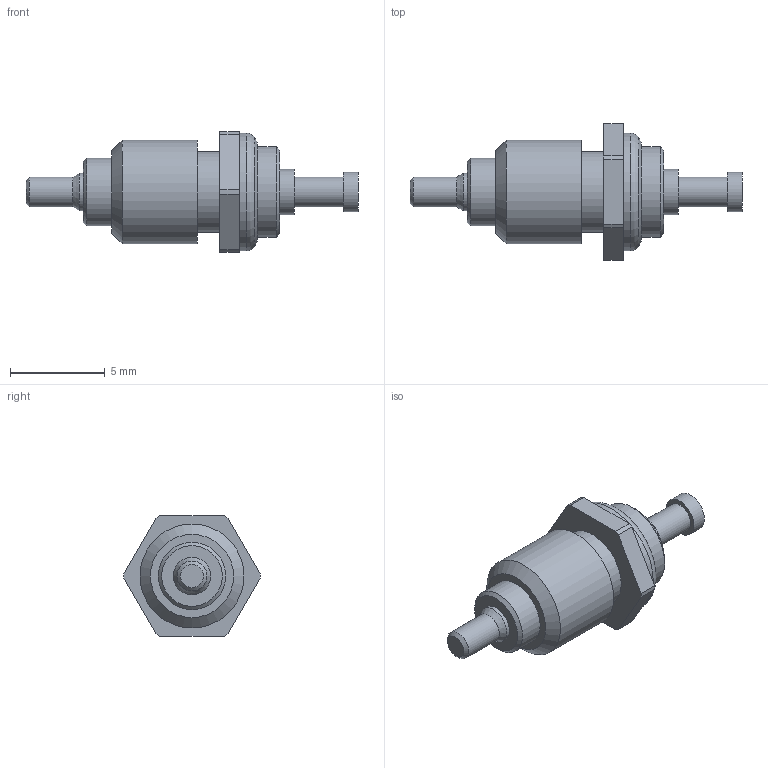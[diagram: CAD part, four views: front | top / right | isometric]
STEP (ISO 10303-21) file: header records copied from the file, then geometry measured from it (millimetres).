
FILE_DESCRIPTION(/* description */ (''),/* implementation_level */ '2;1');
FILE_NAME(/* name */ '\\Snap1\dwgs\Customer 3D Models\570\570-0001.stp',/* time_stamp */ '2016-12-23T09:37:08+00:00',/* author */ ('paulk'),/* organization */ (''),/* preprocessor_version */ 'ST-DEVELOPER v15.2',/* originating_system */ 'Autodesk Inventor 2014',/* authorisation */ '');
FILE_SCHEMA (('CONFIG_CONTROL_DESIGN'));
Length unit declared in the file: millimetre
Products named in the file (1): 570-0001 Customer model
Bounding box: 17.53 x 7.2 x 6.35 mm (x, y, z)
Volume: 235.9 mm3; surface area: 320.6 mm2
Topology: 1 solids, 1 shells, 45 faces, 90 edges, 56 vertices
Faces by surface type: cylinder 18, plane 17, cone 9, torus 1
Full cylindrical faces by diameter (mm): 1.575 x2, 1.981 x1, 2.083 x1, 2.388 x1, 3.556 x1, 4.242 x1, 4.775 x1, 5.486 x2, 5.613 x1, 6.223 x1
Entity records: 1132 total; most frequent: DIRECTION 202, CARTESIAN_POINT 168, ORIENTED_EDGE 134, AXIS2_PLACEMENT_3D 89, EDGE_LOOP 76, EDGE_CURVE 67, VERTEX_POINT 55, STYLED_ITEM 46
